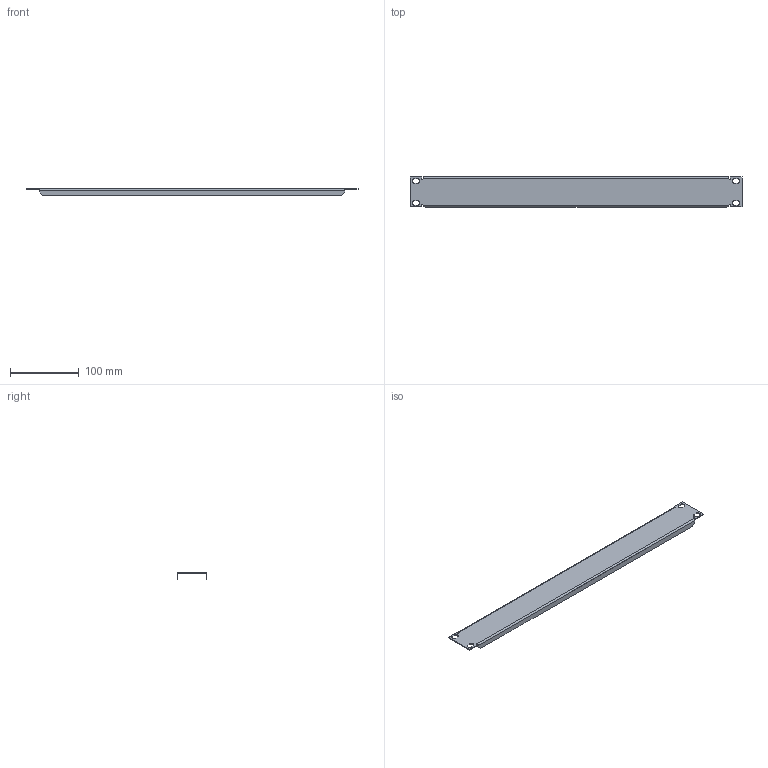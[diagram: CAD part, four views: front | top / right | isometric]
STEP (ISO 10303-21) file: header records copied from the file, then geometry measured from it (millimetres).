
FILE_DESCRIPTION (( 'STEP AP203' ), '1' );
FILE_NAME ('MB 10.48 I Ïàíåëü ãëóõàÿ 19''''.STEP', '2013-01-12T07:02:05', ( 'System' ), ( '' ), 'SwSTEP 2.0', 'SolidWorks 2012', '' );
FILE_SCHEMA (( 'CONFIG_CONTROL_DESIGN' ));
Length unit declared in the file: millimetre
Products named in the file (1): MB 10.48 I Ïàíåëü ãëóõàÿ 19''''
Bounding box: 482.6 x 43.6 x 10 mm (x, y, z)
Volume: 33401.6 mm3; surface area: 57129.8 mm2
Topology: 1 solids, 1 shells, 58 faces, 152 edges, 96 vertices
Faces by surface type: plane 38, cylinder 20
Entity records: 1861 total; most frequent: DIRECTION 310, CARTESIAN_POINT 307, ORIENTED_EDGE 304, EDGE_CURVE 152, VECTOR 112, LINE 112, AXIS2_PLACEMENT_3D 99, VERTEX_POINT 96
